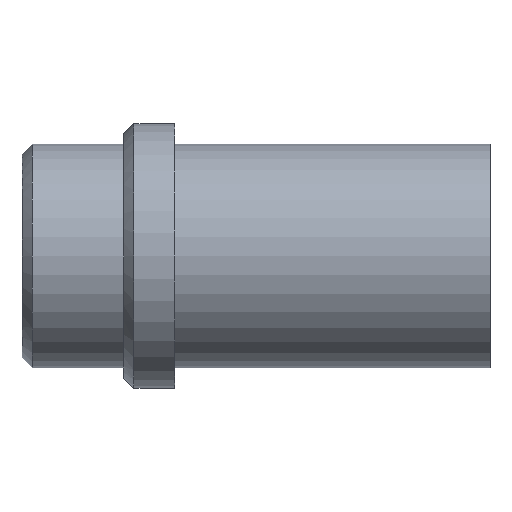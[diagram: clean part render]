
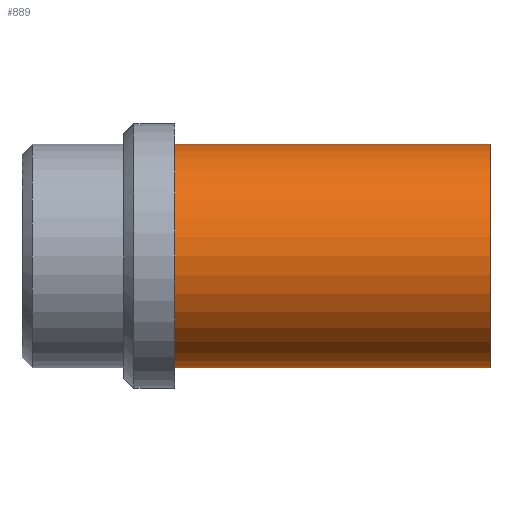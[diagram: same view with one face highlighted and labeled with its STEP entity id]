
A CAD part, front view. The second image highlights one B-rep face of the part: STEP entity #889.
In plain terms, the highlighted cylindrical face has radius 11 mm (diameter 22 mm), a partial arc.
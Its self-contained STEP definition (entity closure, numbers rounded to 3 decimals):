
#723=CARTESIAN_POINT('Vertex',(31.,0.,11.)) ;
#726=CARTESIAN_POINT('Axis2P3D Location',(31.,0.,0.)) ;
#730=CARTESIAN_POINT('Vertex',(31.,-11.,0.)) ;
#733=CARTESIAN_POINT('Axis2P3D Location',(31.,0.,0.)) ;
#737=CARTESIAN_POINT('Vertex',(31.,0.,-11.)) ;
#829=CARTESIAN_POINT('Line Origine',(31.,0.,11.)) ;
#833=CARTESIAN_POINT('Vertex',(0.,0.,11.)) ;
#836=CARTESIAN_POINT('Line Origine',(31.,0.,-11.)) ;
#840=CARTESIAN_POINT('Vertex',(0.,0.,-11.)) ;
#864=CARTESIAN_POINT('Axis2P3D Location',(31.,0.,0.)) ;
#869=CARTESIAN_POINT('Axis2P3D Location',(0.,0.,0.)) ;
#873=CARTESIAN_POINT('Vertex',(0.,-11.,0.)) ;
#876=CARTESIAN_POINT('Axis2P3D Location',(0.,0.,0.)) ;
#727=DIRECTION('Axis2P3D Direction',(1.,0.,-0.)) ;
#734=DIRECTION('Axis2P3D Direction',(1.,0.,-0.)) ;
#830=DIRECTION('Vector Direction',(-1.,0.,0.)) ;
#837=DIRECTION('Vector Direction',(-1.,0.,0.)) ;
#865=DIRECTION('Axis2P3D Direction',(-1.,-0.,-0.)) ;
#866=DIRECTION('Axis2P3D XDirection',(0.,0.,-1.)) ;
#870=DIRECTION('Axis2P3D Direction',(-1.,-0.,-0.)) ;
#877=DIRECTION('Axis2P3D Direction',(-1.,-0.,-0.)) ;
#728=AXIS2_PLACEMENT_3D('Circle Axis2P3D',#726,#727,$) ;
#735=AXIS2_PLACEMENT_3D('Circle Axis2P3D',#733,#734,$) ;
#867=AXIS2_PLACEMENT_3D('Cylinder Axis2P3D',#864,#865,#866) ;
#871=AXIS2_PLACEMENT_3D('Circle Axis2P3D',#869,#870,$) ;
#878=AXIS2_PLACEMENT_3D('Circle Axis2P3D',#876,#877,$) ;
#882=ORIENTED_EDGE('',*,*,#842,.T.) ;
#883=ORIENTED_EDGE('',*,*,#739,.F.) ;
#884=ORIENTED_EDGE('',*,*,#732,.F.) ;
#885=ORIENTED_EDGE('',*,*,#835,.T.) ;
#886=ORIENTED_EDGE('',*,*,#875,.T.) ;
#887=ORIENTED_EDGE('',*,*,#880,.T.) ;
#831=VECTOR('Line Direction',#830,1.) ;
#838=VECTOR('Line Direction',#837,1.) ;
#889=ADVANCED_FACE('358-16X46',(#888),#868,.T.) ;
#729=CIRCLE('generated circle',#728,11.) ;
#736=CIRCLE('generated circle',#735,11.) ;
#872=CIRCLE('generated circle',#871,11.) ;
#879=CIRCLE('generated circle',#878,11.) ;
#868=CYLINDRICAL_SURFACE('generated cylinder',#867,11.) ;
#732=EDGE_CURVE('',#724,#731,#729,.T.) ;
#739=EDGE_CURVE('',#731,#738,#736,.T.) ;
#835=EDGE_CURVE('',#724,#834,#832,.T.) ;
#842=EDGE_CURVE('',#841,#738,#839,.F.) ;
#875=EDGE_CURVE('',#834,#874,#872,.F.) ;
#880=EDGE_CURVE('',#874,#841,#879,.F.) ;
#881=EDGE_LOOP('',(#882,#883,#884,#885,#886,#887)) ;
#888=FACE_OUTER_BOUND('',#881,.T.) ;
#832=LINE('Line',#829,#831) ;
#839=LINE('Line',#836,#838) ;
#724=VERTEX_POINT('',#723) ;
#731=VERTEX_POINT('',#730) ;
#738=VERTEX_POINT('',#737) ;
#834=VERTEX_POINT('',#833) ;
#841=VERTEX_POINT('',#840) ;
#874=VERTEX_POINT('',#873) ;
